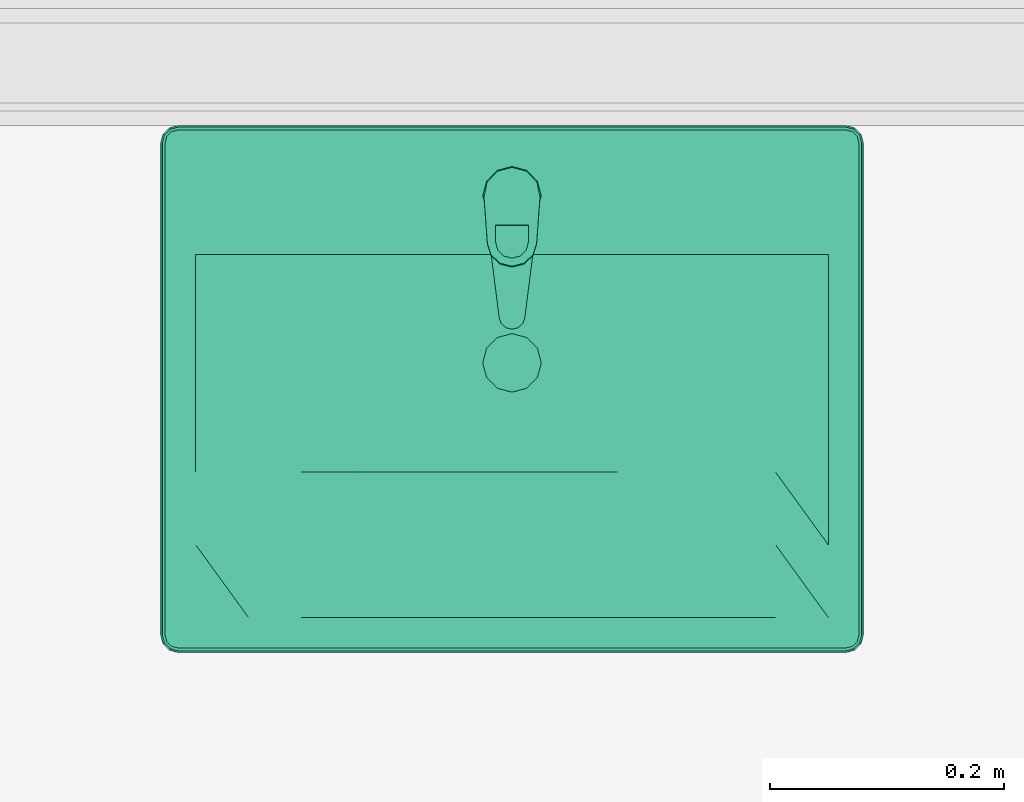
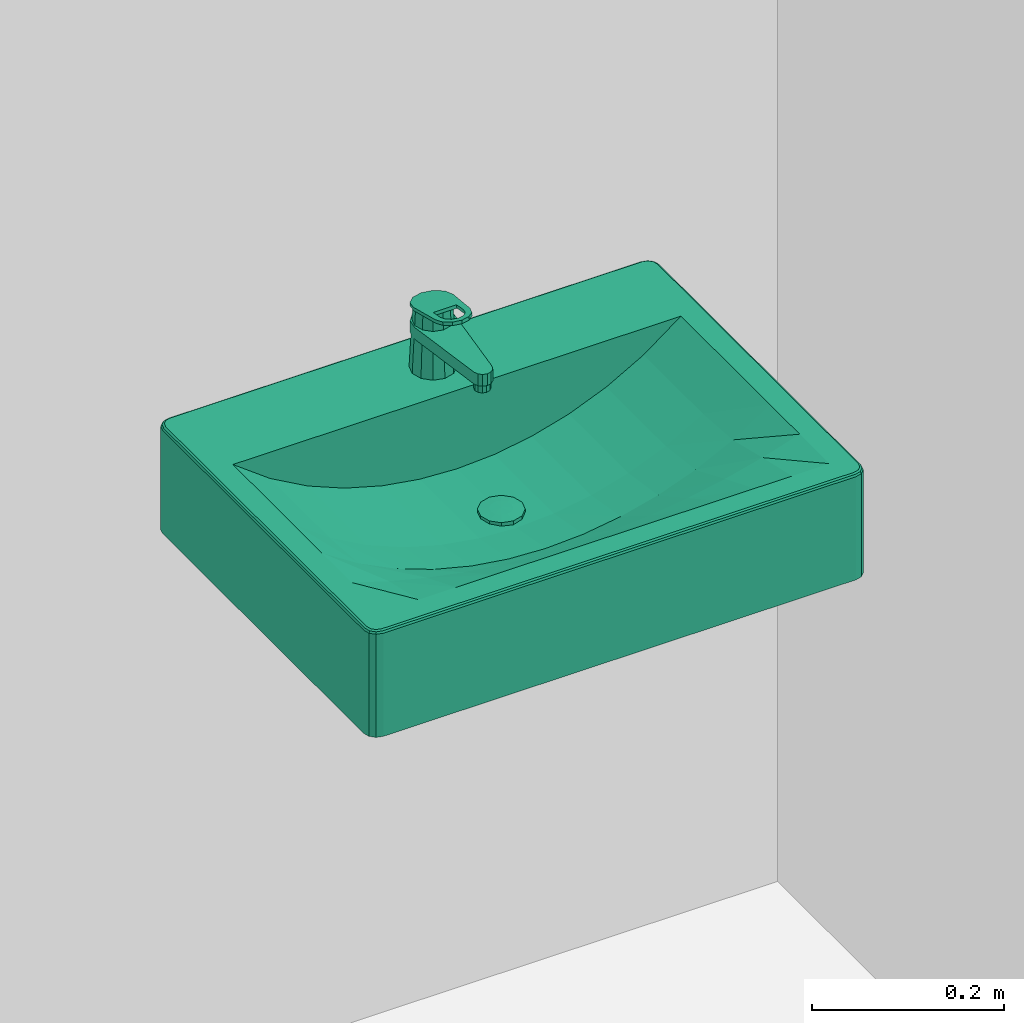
# One storey, part 118 of 135: 1 flow controller.
"""IFC2X3 building model written with IfcOpenShell, lengths in millimetres."""

import ifcopenshell
import ifcopenshell.guid

model = None  # the IFC model being written
_history = None  # IfcOwnerHistory: only IFC2X3 demands one
_inside = {}  # id of a spatial element -> (the spatial element, [elements in it])
_under = {}  # id of a project, library or spatial element -> (it, [spatial elements below it])
_declared = {}  # id of a project -> (the project, [libraries it declares])
_typed = {}  # id of a type object -> (the type object, [elements of that type])
_made_of = {}  # id of a material, layer set ... -> (it, [elements and type objects made of it])


def new_model(schema):
    """Start an empty IFC model of exactly this schema.

    Asked for "IFC4X3", IfcOpenShell would pick the latest addendum, in which some entities
    have other attributes; the version numbers below select the first issue.
    IFC2X3 requires an IfcOwnerHistory on every rooted entity: one is made here for all.
    """
    global model, _history
    if schema == "IFC4X3":
        model = ifcopenshell.file(schema_version=(4, 3, 0, 0))
    else:
        model = ifcopenshell.file(schema=schema)
    _inside.clear()
    _under.clear()
    _declared.clear()
    _typed.clear()
    _made_of.clear()
    _history = None
    if model.schema == "IFC2X3":
        org = make("IfcOrganization", Name="unknown")
        user = make(
            "IfcPersonAndOrganization",
            ThePerson=make("IfcPerson", FamilyName="unknown"),
            TheOrganization=org,
        )
        app = make(
            "IfcApplication",
            ApplicationDeveloper=org,
            Version="unknown",
            ApplicationFullName="unknown",
            ApplicationIdentifier="unknown",
        )
        _history = make(
            "IfcOwnerHistory",
            OwningUser=user,
            OwningApplication=app,
            ChangeAction="ADDED",
            CreationDate=0,
        )
    return model


def make(cls, **values):
    """One entity of the class cls with the attributes given. An attribute that is None is left unset."""
    return model.create_entity(
        cls, **{name: value for name, value in values.items() if value is not None}
    )


def entity(cls, *values):
    """Any entity or typed value of the class cls, its attributes in the order of the schema. None: left unset."""
    e = model.create_entity(cls)
    for i, value in enumerate(values):
        if value is not None:
            e[i] = value
    return e


def rooted(cls, **values):
    """An entity with a GlobalId (a new one), such as an element, a storey or a relation."""
    return make(cls, GlobalId=ifcopenshell.guid.new(), OwnerHistory=_history, **values)


def si_unit(unit_type, name, prefix=None):
    """IfcSIUnit, for example si_unit("LENGTHUNIT", "METRE", prefix="MILLI")."""
    return make("IfcSIUnit", UnitType=unit_type, Prefix=prefix, Name=name)


def converted_unit(unit_type, name, factor, base, dimensions=None, offset=None):
    """IfcConversionBasedUnit, such as the inch: factor (a typed value) times the base unit."""
    return make(
        "IfcConversionBasedUnit"
        if offset is None
        else "IfcConversionBasedUnitWithOffset",
        ConversionOffset=offset,
        Dimensions=None
        if dimensions is None
        else entity("IfcDimensionalExponents", *dimensions),
        UnitType=unit_type,
        Name=name,
        ConversionFactor=make(
            "IfcMeasureWithUnit", ValueComponent=factor, UnitComponent=base
        ),
    )


def derived_unit(unit_type, elements):
    """IfcDerivedUnit: a product of units, each with its exponent."""
    return make(
        "IfcDerivedUnit",
        Elements=[
            make("IfcDerivedUnitElement", Unit=unit, Exponent=power)
            for unit, power in elements
        ],
        UnitType=unit_type,
    )


def money_unit(currency):
    """IfcMonetaryUnit."""
    return make("IfcMonetaryUnit", Currency=currency)


def assignment(units):
    """IfcUnitAssignment: the units of a project."""
    return None if units is None else make("IfcUnitAssignment", Units=units)


def point(xyz):
    """IfcCartesianPoint."""
    return None if xyz is None else make("IfcCartesianPoint", Coordinates=xyz)


def direction(xyz):
    """IfcDirection."""
    return None if xyz is None else make("IfcDirection", DirectionRatios=xyz)


def frame(location, z_axis=None, x_axis=None):
    """IfcAxis2Placement3D, a coordinate frame: its origin and axes. An axis left out is left unset."""
    return make(
        "IfcAxis2Placement3D",
        Location=point(location),
        Axis=direction(z_axis),
        RefDirection=direction(x_axis),
    )


def origin_with_axes():
    """The frame at (0, 0, 0) with the z axis (0, 0, 1) and the x axis (1, 0, 0) written out."""
    return frame((0.0, 0.0, 0.0), z_axis=(0.0, 0.0, 1.0), x_axis=(1.0, 0.0, 0.0))


def place(relative_to, where):
    """IfcLocalPlacement: puts the frame where relative to a parent placement (None: the world)."""
    return make(
        "IfcLocalPlacement", PlacementRelTo=relative_to, RelativePlacement=where
    )


def context(
    kind, dimensions, precision=None, world=None, true_north=None, identifier=None
):
    """IfcGeometricRepresentationContext, for example the 3D "Model" context."""
    return make(
        "IfcGeometricRepresentationContext",
        ContextIdentifier=identifier,
        ContextType=kind,
        CoordinateSpaceDimension=dimensions,
        Precision=precision,
        WorldCoordinateSystem=world,
        TrueNorth=true_north,
    )


def subcontext(parent, identifier, kind, view, scale=None):
    """IfcGeometricRepresentationSubContext, for example "Body" below "Model"."""
    return make(
        "IfcGeometricRepresentationSubContext",
        ContextIdentifier=identifier,
        ContextType=kind,
        ParentContext=parent,
        TargetScale=scale,
        TargetView=view,
    )


def project(units=None, contexts=None):
    """IfcProject with its units and contexts."""
    return rooted(
        "IfcProject",
        Name="project",
        RepresentationContexts=contexts,
        UnitsInContext=assignment(units),
    )


def spatial(cls, under=None, at=None, **own):
    """A site, building, storey or space (cls), placed at a placement, below another one or the project."""
    s = rooted(cls, ObjectPlacement=at, **own)
    if under is not None:
        _under.setdefault(under.id(), (under, []))[1].append(s)
    return s


def faces_of(points, faces, orient=None, outer=None):
    """IfcFace entities. A face is a list of loops; a loop is a list of indices into points, from 0.

    orient and outer hold one flag for each loop. By default every Orientation is true, the
    first loop of a face is its IfcFaceOuterBound and the others are IfcFaceBound.
    """
    made = []
    for i, loops in enumerate(faces):
        bounds = []
        for j, loop in enumerate(loops):
            is_outer = j == 0 if outer is None else outer[i][j]
            bounds.append(
                make(
                    "IfcFaceOuterBound" if is_outer else "IfcFaceBound",
                    Bound=make("IfcPolyLoop", Polygon=[points[k] for k in loop]),
                    Orientation=True if orient is None else orient[i][j],
                )
            )
        made.append(make("IfcFace", Bounds=bounds))
    return made


def open_shell(faces, orient=None, outer=None):
    """The faces of one IfcOpenShell. surface_model builds it on its shared points."""
    return ("IfcOpenShell", faces, orient, outer)


def faceted_brep(points, faces, orient=None, outer=None, voids=None):
    """IfcFacetedBrep: a solid bounded by flat faces; with voids (closed shells), ...WithVoids."""
    shared = [point(p) for p in points]
    hull = make("IfcClosedShell", CfsFaces=faces_of(shared, faces, orient, outer))
    if voids is None:
        return make("IfcFacetedBrep", Outer=hull)
    return make(
        "IfcFacetedBrepWithVoids",
        Outer=hull,
        Voids=[
            make(cls, CfsFaces=faces_of(shared, fs, o, b)) for cls, fs, o, b in voids
        ],
    )


def surface_model(cls, points, shells):
    """IfcFaceBasedSurfaceModel or IfcShellBasedSurfaceModel (cls): surfaces that need not close."""
    shared = [point(p) for p in points]
    made = [make(c, CfsFaces=faces_of(shared, fs, o, b)) for c, fs, o, b in shells]
    if cls == "IfcFaceBasedSurfaceModel":
        return make(cls, FbsmFaces=made)
    return make(cls, SbsmBoundary=made)


def shape(context_of_items, identifier, shape_type, items):
    """IfcShapeRepresentation: the items that make up one representation, for example the "Body"."""
    return make(
        "IfcShapeRepresentation",
        ContextOfItems=context_of_items,
        RepresentationIdentifier=identifier,
        RepresentationType=shape_type,
        Items=items,
    )


def source(mapping_origin, context_of_items, identifier, shape_type, items):
    """IfcRepresentationMap: a shape defined once, which mapped items show again and again."""
    return make(
        "IfcRepresentationMap",
        MappingOrigin=mapping_origin,
        MappedRepresentation=shape(context_of_items, identifier, shape_type, items),
    )


def transform(
    local_origin,
    x_axis=None,
    y_axis=None,
    z_axis=None,
    scale=None,
    scale2=None,
    scale3=None,
    uniform=True,
):
    """IfcCartesianTransformationOperator3D, or its non-uniform kind. x_axis, y_axis, z_axis: its Axis1, 2, 3."""
    if uniform:
        return make(
            "IfcCartesianTransformationOperator3D",
            Axis1=direction(x_axis),
            Axis2=direction(y_axis),
            LocalOrigin=point(local_origin),
            Scale=scale,
            Axis3=direction(z_axis),
        )
    return make(
        "IfcCartesianTransformationOperator3DnonUniform",
        Axis1=direction(x_axis),
        Axis2=direction(y_axis),
        LocalOrigin=point(local_origin),
        Scale=scale,
        Axis3=direction(z_axis),
        Scale2=scale2,
        Scale3=scale3,
    )


def mapped(mapping_source, mapping_target):
    """IfcMappedItem: shows the shape of a source again, moved by a transform."""
    return make(
        "IfcMappedItem", MappingSource=mapping_source, MappingTarget=mapping_target
    )


def made_of(thing, what):
    """Note that an element or type object is made of a material, layer set ...; save() writes the relation."""
    if what is not None:
        _made_of.setdefault(what.id(), (what, []))[1].append(thing)
    return thing


def type_object(cls, material=None, **own):
    """A type object (cls), such as IfcWallType, which elements share."""
    return made_of(rooted(cls, **own), material)


def type_shapes(of_type, sources):
    """Give a type object the sources (RepresentationMaps) that its elements show as mapped items."""
    of_type.RepresentationMaps = sources


def element(
    cls,
    number,
    at=None,
    inside=None,
    cuts=None,
    type_object=None,
    material=None,
    context=None,
    identifier="Body",
    shape_type=None,
    held_by="IfcProductDefinitionShape",
    body=None,
    shapes=None,
    **own,
):
    """One element of the class cls, such as IfcWall. Its Tag is "e" and its number.

    at: its placement. inside: the storey or other place that contains it. cuts: it is an
    opening in that element (IfcRelVoidsElement). A single representation is given by context,
    identifier, shape_type and body (its items); several are given by shapes. held_by: the class
    of the entity that holds the representations. save() writes the other relations.
    """
    e = rooted(cls, Tag="e%d" % number, ObjectPlacement=at, **own)
    if body is not None:
        shapes = [shape(context, identifier, shape_type, body)]
    if shapes is not None:
        e.Representation = make(held_by, Representations=shapes)
    if inside is not None:
        _inside.setdefault(inside.id(), (inside, []))[1].append(e)
    if cuts is not None:
        rooted(
            "IfcRelVoidsElement", RelatingBuildingElement=cuts, RelatedOpeningElement=e
        )
    if type_object is not None:
        _typed.setdefault(type_object.id(), (type_object, []))[1].append(e)
    return made_of(e, material)


def aggregate(whole, parts):
    """IfcRelAggregates: a whole, such as a stair, and the parts it consists of."""
    return rooted("IfcRelAggregates", RelatingObject=whole, RelatedObjects=parts)


def save(model, path):
    """Write the relations noted so far, then the file.

    IfcRelAggregates (storeys below a building ...), IfcRelContainedInSpatialStructure (elements
    in a storey), IfcRelDefinesByType, IfcRelAssociatesMaterial and IfcRelDeclares: one each for
    every whole, place, type object, material and project.
    """
    for whole, parts in _under.values():
        aggregate(whole, parts)
    for where, things in _inside.values():
        rooted(
            "IfcRelContainedInSpatialStructure",
            RelatedElements=things,
            RelatingStructure=where,
        )
    for kind, things in _typed.values():
        rooted("IfcRelDefinesByType", RelatedObjects=things, RelatingType=kind)
    for what, things in _made_of.values():
        rooted("IfcRelAssociatesMaterial", RelatedObjects=things, RelatingMaterial=what)
    for by, libraries in _declared.values():
        rooted("IfcRelDeclares", RelatingContext=by, RelatedDefinitions=libraries)
    model.write(path)


model = new_model("IFC2X3")

# Units and contexts
model_context = context("Model", 3, precision=0.01, world=origin_with_axes(), true_north=direction((0.0, 1.0)))
body_context = subcontext(model_context, "Body", "Model", "MODEL_VIEW")
ifc_project = project(units=[si_unit("LENGTHUNIT", "METRE", prefix="MILLI"), si_unit("AREAUNIT", "SQUARE_METRE"), si_unit("VOLUMEUNIT", "CUBIC_METRE"), converted_unit("PLANEANGLEUNIT", "DEGREE", entity("IfcPlaneAngleMeasure", 0.0174532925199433), si_unit("PLANEANGLEUNIT", "RADIAN"), dimensions=[0, 0, 0, 0, 0, 0, 0]), money_unit("EUR"), converted_unit("TIMEUNIT", "Year", entity("IfcTimeMeasure", 31557600.0), si_unit("TIMEUNIT", "SECOND"), dimensions=[0, 0, 1, 0, 0, 0, 0]), si_unit("MASSUNIT", "GRAM", prefix="KILO"), si_unit("THERMODYNAMICTEMPERATUREUNIT", "DEGREE_CELSIUS"), si_unit("LUMINOUSINTENSITYUNIT", "LUMEN"), si_unit("ENERGYUNIT", "JOULE", prefix="MEGA"), derived_unit("THERMALCONDUCTANCEUNIT", [(si_unit("POWERUNIT", "WATT"), 1), (si_unit("LENGTHUNIT", "METRE"), -1), (si_unit("THERMODYNAMICTEMPERATUREUNIT", "KELVIN"), -1)]), derived_unit("SPECIFICHEATCAPACITYUNIT", [(si_unit("ENERGYUNIT", "JOULE"), 1), (si_unit("MASSUNIT", "GRAM", prefix="KILO"), -1), (si_unit("THERMODYNAMICTEMPERATUREUNIT", "KELVIN"), -1)]), derived_unit("MASSDENSITYUNIT", [(si_unit("MASSUNIT", "GRAM", prefix="KILO"), 1), (si_unit("VOLUMEUNIT", "CUBIC_METRE"), -1)])], contexts=[model_context])

# Site, building, storey
site_placement = place(None, origin_with_axes())
site = spatial("IfcSite", under=ifc_project, at=site_placement, Name="Site", CompositionType="ELEMENT")
building_placement = place(site_placement, origin_with_axes())
building = spatial("IfcBuilding", under=site, at=building_placement, Name="Naam gebouw", CompositionType="ELEMENT")
storey_placement = place(building_placement, origin_with_axes())
storey = spatial("IfcBuildingStorey", under=building, at=storey_placement, Name="Begane grond N", CompositionType="ELEMENT", Elevation=0.0)

# Flow controller
valve_type = type_object("IfcValveType", Name="Wasbak 27", PredefinedType="NOTDEFINED")
shared_shape = source(origin_with_axes(), body_context, "Body", "SurfaceModel", [
    faceted_brep([(-285.0, -450.0, 865.0), (-292.5, -447.9903810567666, 865.0), (-297.9903810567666, -442.5, 865.0), (-300.0, -435.0, 865.0), (-300.0, -15.00000000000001, 865.0), (-297.9903810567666, -7.500000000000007, 865.0), (-292.5, -2.009618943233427, 865.0), (-285.0, 0.0, 865.0), (285.0, 0.0, 865.0), (292.5, -2.009618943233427, 865.0), (297.9903810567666, -7.500000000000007, 865.0), (300.0, -15.00000000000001, 865.0), (300.0, -435.0, 865.0), (297.9903810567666, -442.5, 865.0), (292.5, -447.9903810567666, 865.0), (285.0, -450.0, 865.0), (270.0, -420.0000000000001, 865.0), (270.0, -110.0, 865.0), (-270.0, -110.0, 865.0), (-270.0, -420.0000000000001, 865.0), (-284.9999995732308, -450.0000003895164, 995.0), (-292.499999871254, -447.9903813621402, 995.0), (-297.990381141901, -442.5000000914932, 995.0), (-300.0000001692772, -434.99999979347, 995.0), (-300.0000001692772, -14.99999986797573, 995.0), (-297.990381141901, -7.499999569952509, 995.0), (-292.499999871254, -2.009619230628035, 995.0), (-284.9999995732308, -2.032518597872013e-07, 995.0), (284.9999997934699, -2.032518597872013e-07, 995.0), (292.5000000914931, -2.009619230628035, 995.0), (297.9903813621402, -7.499999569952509, 995.0), (300.0000003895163, -14.99999986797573, 995.0), (300.0000003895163, -434.99999979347, 995.0), (297.9903813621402, -442.5000000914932, 995.0), (292.5000000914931, -447.9903813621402, 995.0), (284.9999997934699, -450.0000003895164, 995.0), (270.0, -110.0, 999.9999996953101), (270.0, -420.0000000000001, 999.9999996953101), (-270.0, -110.0, 999.9999996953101), (-270.0, -420.0000000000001, 999.9999996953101), (-284.9775698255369, -449.8296295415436, 996.2940952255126), (-292.411809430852, -447.8376310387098, 996.2940952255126), (-297.8376308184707, -442.4118096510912, 996.2940952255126), (-299.8296293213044, -434.9775700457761, 996.2940952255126), (-299.8296293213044, -15.02242961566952, 996.2940952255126), (-297.8376308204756, -7.588190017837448, 996.2940952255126), (-292.4118094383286, -2.16236955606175, 996.2940952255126), (-284.9775698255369, -0.1703710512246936, 996.2940952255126), (284.9775700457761, -0.1703710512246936, 996.2940952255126), (292.4118096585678, -2.16236955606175, 996.2940952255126), (297.8376310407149, -7.588190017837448, 996.2940952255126), (299.8296295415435, -15.02242961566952, 996.2940952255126), (299.8296295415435, -434.9775700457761, 996.2940952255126), (297.8376310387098, -442.4118096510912, 996.2940952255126), (292.4118096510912, -447.8376310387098, 996.2940952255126), (284.9775700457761, -449.8296295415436, 996.2940952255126), (284.3417376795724, -4.999997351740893, 999.9999996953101), (-284.3417374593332, -4.999997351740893, 999.9999996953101), (-289.9118111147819, -6.492494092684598, 999.9999996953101), (-293.507506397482, -10.08818876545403, 999.9999996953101), (-295.0000030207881, -15.6582619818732, 999.9999996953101), (-295.0000030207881, -434.3417376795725, 999.9999996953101), (-293.5075063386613, -439.9118111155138, 999.9999996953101), (-289.9118108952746, -443.5075065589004, 999.9999996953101), (-284.3417374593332, -445.0000032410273, 999.9999996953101), (284.3417376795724, -445.0000032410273, 999.9999996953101), (289.9118111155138, -443.5075065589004, 999.9999996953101), (293.5075065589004, -439.9118111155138, 999.9999996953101), (295.0000032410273, -434.3417376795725, 999.9999996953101), (295.0000032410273, -15.6582619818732, 999.9999996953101), (293.5075066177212, -10.08818876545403, 999.9999996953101), (289.911811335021, -6.492494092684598, 999.9999996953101), (-284.8071989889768, -448.5355345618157, 998.5355339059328), (-291.7419365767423, -446.6773772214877, 998.5355339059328), (-296.6773770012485, -441.7419367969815, 998.5355339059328), (-298.5355343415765, -434.807199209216, 998.5355339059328), (-298.5355343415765, -15.1928004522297, 998.5355339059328), (-296.677377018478, -8.258062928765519, 998.5355339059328), (-291.7419366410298, -3.322623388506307, 998.5355339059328), (-284.8071989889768, -1.464466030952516, 998.5355339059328), (284.8071992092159, -1.464466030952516, 998.5355339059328), (291.7419368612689, -3.322623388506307, 998.5355339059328), (296.6773772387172, -8.258062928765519, 998.5355339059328), (298.5355345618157, -15.1928004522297, 998.5355339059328), (298.5355345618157, -434.807199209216, 998.5355339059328), (296.6773772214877, -441.7419367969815, 998.5355339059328), (291.7419367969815, -446.6773772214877, 998.5355339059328), (284.8071992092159, -448.5355345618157, 998.5355339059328), (284.5121082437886, -3.705904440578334, 999.8296291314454), (-284.5121080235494, -3.705904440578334, 999.8296291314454), (-290.581682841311, -5.332242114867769, 999.8296291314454), (-294.667758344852, -9.418316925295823, 999.8296291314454), (-296.2940959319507, -15.487891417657, 999.8296291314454), (-296.2940959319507, -434.5121082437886, 999.8296291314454), (-294.6677583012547, -440.5816828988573, 999.8296291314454), (-290.5816826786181, -444.6677585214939, 999.8296291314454), (-284.5121080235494, -446.2940961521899, 999.8296291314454), (284.5121082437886, -446.2940961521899, 999.8296291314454), (290.5816828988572, -444.6677585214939, 999.8296291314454), (294.6677585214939, -440.5816828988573, 999.8296291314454), (296.2940961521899, -434.5121082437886, 999.8296291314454), (296.2940961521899, -15.487891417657, 999.8296291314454), (294.6677585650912, -9.418316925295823, 999.8296291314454), (290.5816830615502, -5.332242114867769, 999.8296291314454)], [[[0, 1, 2, 3, 4, 5, 6, 7, 8, 9, 10, 11, 12, 13, 14, 15], [16, 17, 18, 19]], [[1, 0, 20, 21]], [[2, 1, 21, 22]], [[3, 2, 22, 23]], [[4, 3, 23, 24]], [[5, 4, 24, 25]], [[6, 5, 25, 26]], [[7, 6, 26, 27]], [[8, 7, 27, 28]], [[9, 8, 28, 29]], [[10, 9, 29, 30]], [[11, 10, 30, 31]], [[12, 11, 31, 32]], [[13, 12, 32, 33]], [[14, 13, 33, 34]], [[15, 14, 34, 35]], [[0, 15, 35, 20]], [[36, 17, 16, 37]], [[38, 18, 17, 36]], [[39, 19, 18, 38]], [[37, 16, 19, 39]], [[21, 20, 40, 41]], [[22, 21, 41, 42]], [[23, 22, 42, 43]], [[24, 23, 43, 44]], [[25, 24, 44, 45]], [[26, 25, 45, 46]], [[27, 26, 46, 47]], [[28, 27, 47, 48]], [[29, 28, 48, 49]], [[30, 29, 49, 50]], [[31, 30, 50, 51]], [[32, 31, 51, 52]], [[33, 32, 52, 53]], [[34, 33, 53, 54]], [[35, 34, 54, 55]], [[20, 35, 55, 40]], [[56, 57, 58, 59, 60, 61, 62, 63, 64, 65, 66, 67, 68, 69, 70, 71], [37, 39, 38, 36]], [[41, 40, 72, 73]], [[42, 41, 73, 74]], [[43, 42, 74, 75]], [[44, 43, 75, 76]], [[45, 44, 76, 77]], [[46, 45, 77, 78]], [[47, 46, 78, 79]], [[48, 47, 79, 80]], [[49, 48, 80, 81]], [[50, 49, 81, 82]], [[51, 50, 82, 83]], [[52, 51, 83, 84]], [[53, 52, 84, 85]], [[54, 53, 85, 86]], [[55, 54, 86, 87]], [[40, 55, 87, 72]], [[88, 89, 57, 56]], [[89, 90, 58, 57]], [[90, 91, 59, 58]], [[91, 92, 60, 59]], [[92, 93, 61, 60]], [[93, 94, 62, 61]], [[94, 95, 63, 62]], [[95, 96, 64, 63]], [[96, 97, 65, 64]], [[97, 98, 66, 65]], [[98, 99, 67, 66]], [[99, 100, 68, 67]], [[100, 101, 69, 68]], [[101, 102, 70, 69]], [[102, 103, 71, 70]], [[103, 88, 56, 71]], [[73, 72, 96, 95]], [[74, 73, 95, 94]], [[75, 74, 94, 93]], [[76, 75, 93, 92]], [[77, 76, 92, 91]], [[78, 77, 91, 90]], [[79, 78, 90, 89]], [[80, 79, 89, 88]], [[81, 80, 88, 103]], [[82, 81, 103, 102]], [[83, 82, 102, 101]], [[84, 83, 101, 100]], [[85, 84, 100, 99]], [[86, 85, 99, 98]], [[87, 86, 98, 97]], [[72, 87, 97, 96]]]),
    faceted_brep([(270.0, -420.0000000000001, 865.0), (-270.0, -420.0000000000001, 865.0), (-270.0, -110.0, 865.0), (270.0, -110.0, 865.0), (-12.49999999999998, -224.368635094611, 865.0), (0.0, -227.718, 865.0), (12.50000000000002, -224.368635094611, 865.0), (21.65063509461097, -215.218, 865.0), (25.0, -202.718, 865.0), (21.65063509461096, -190.218, 865.0), (12.49999999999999, -181.067364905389, 865.0), (0.0, -177.718, 865.0), (-12.50000000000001, -181.067364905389, 865.0), (-21.65063509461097, -190.218, 865.0), (-25.0, -202.718, 865.0), (-21.65063509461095, -215.218, 865.0), (135.0, -420.0000000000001, 1000.0), (90.0, -420.0000000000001, 1000.0), (44.99999999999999, -420.0000000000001, 1000.0), (0.0, -420.0000000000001, 1000.0), (-45.00000000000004, -420.0000000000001, 1000.0), (-90.00000000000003, -420.0000000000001, 1000.0), (-135.0, -420.0000000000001, 1000.0), (-180.0000000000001, -420.0000000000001, 1000.0), (-225.0, -420.0000000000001, 1000.0), (-270.0, -420.0000000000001, 1000.0), (270.0, -420.0000000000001, 1000.0), (225.0, -420.0000000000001, 1000.0), (180.0, -420.0000000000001, 1000.0), (-270.0, -234.0, 1000.0), (-270.0, -172.0, 1000.0), (-270.0, -110.0, 1000.0), (-270.0, -358.0000000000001, 1000.0), (-270.0, -296.0000000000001, 999.9999999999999), (-135.0, -110.0, 922.6004593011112), (-90.00000000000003, -110.0, 909.8887668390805), (-45.00000000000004, -110.0, 902.449942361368), (0.0, -110.0, 900.0), (44.99999999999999, -110.0, 902.449942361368), (90.0, -110.0, 909.8887668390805), (135.0, -110.0, 922.6004593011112), (180.0, -110.0, 941.1231796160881), (225.0, -110.0, 966.3832810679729), (270.0, -110.0, 1000.0), (-225.0, -110.0, 966.3832810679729), (-180.0000000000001, -110.0, 941.1231796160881), (270.0, -296.0000000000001, 1000.0), (270.0, -358.0000000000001, 1000.0), (270.0, -172.0, 1000.0), (270.0, -234.0, 1000.0), (0.0, -227.718, 900.0), (-12.49999999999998, -224.368635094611, 900.6805395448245), (12.50000000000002, -224.368635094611, 900.6805395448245), (21.65063509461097, -215.218, 901.1787290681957), (25.0, -202.718, 901.3610790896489), (21.65063509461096, -190.218, 901.1787290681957), (12.49999999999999, -181.067364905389, 900.6805395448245), (0.0, -177.718, 900.0), (-12.50000000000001, -181.067364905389, 900.6805395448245), (-21.65063509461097, -190.218, 901.1787290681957), (-25.0, -202.718, 901.3610790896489), (-21.65063509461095, -215.218, 901.1787290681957), (90.0, -358.0000000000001, 959.6989661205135), (44.99999999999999, -358.0000000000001, 956.0213334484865), (0.0, -358.0000000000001, 954.7990813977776), (-45.00000000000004, -358.0000000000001, 956.0213334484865), (-90.00000000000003, -358.0000000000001, 959.6989661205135), (-135.0, -358.0000000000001, 965.8650987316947), (-180.0000000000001, -358.0000000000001, 974.5766150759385), (-225.0, -358.0000000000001, 985.9168845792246), (225.0, -358.0000000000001, 985.9168845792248), (180.0, -358.0000000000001, 974.5766150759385), (135.0, -358.0000000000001, 965.8650987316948), (-225.0, -234.0, 966.3832810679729), (-225.0, -172.0, 966.3832810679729), (-225.0, -296.0000000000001, 970.8433791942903), (-135.0, -172.0, 922.6004593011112), (-90.00000000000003, -172.0, 909.8887668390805), (-45.00000000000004, -172.0, 902.449942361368), (0.0, -172.0, 900.0), (44.99999999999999, -172.0, 902.449942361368), (90.0, -172.0, 909.8887668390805), (135.0, -172.0, 922.6004593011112), (180.0, -172.0, 941.1231796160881), (225.0, -172.0, 966.3832810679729), (-180.0000000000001, -172.0, 941.1231796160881), (225.0, -296.0000000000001, 970.8433791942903), (225.0, -234.0, 966.3832810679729), (-45.00000000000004, -234.0, 902.449942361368), (0.0, -234.0, 900.0), (44.99999999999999, -234.0, 902.449942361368), (-180.0000000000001, -234.0, 941.1231796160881), (-135.0, -234.0, 922.6004593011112), (-90.00000000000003, -234.0, 909.8887668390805), (90.0, -234.0, 909.8887668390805), (135.0, -234.0, 922.6004593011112), (180.0, -234.0, 941.1231796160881), (0.0, -296.0000000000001, 911.4604006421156), (44.99999999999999, -296.0000000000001, 913.6864730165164), (90.0, -296.0000000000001, 920.4312036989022), (-45.00000000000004, -296.0000000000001, 913.6864730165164), (-90.00000000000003, -296.0000000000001, 920.4312036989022), (-135.0, -296.0000000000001, 931.904485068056), (-180.0000000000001, -296.0000000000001, 948.4946543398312), (180.0, -296.0000000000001, 948.4946543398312), (135.0, -296.0000000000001, 931.904485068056)], [[[0, 1, 2, 3], [4, 5, 6, 7, 8, 9, 10, 11, 12, 13, 14, 15]], [[16, 17, 18, 19, 20, 21, 22, 23, 24, 25, 1, 0, 26, 27, 28]], [[29, 30, 31, 2, 1, 25, 32, 33]], [[34, 35, 36, 37, 38, 39, 40, 41, 42, 43, 3, 2, 31, 44, 45]], [[46, 47, 26, 0, 3, 43, 48, 49]], [[50, 5, 4, 51]], [[52, 6, 5, 50]], [[53, 7, 6, 52]], [[54, 8, 7, 53]], [[55, 9, 8, 54]], [[56, 10, 9, 55]], [[57, 11, 10, 56]], [[58, 12, 11, 57]], [[59, 13, 12, 58]], [[60, 14, 13, 59]], [[61, 15, 14, 60]], [[51, 4, 15, 61]], [[16, 62, 17]], [[17, 63, 18]], [[18, 64, 19]], [[19, 65, 20]], [[20, 66, 21]], [[21, 67, 22]], [[22, 68, 23]], [[23, 69, 24]], [[24, 32, 25]], [[26, 70, 27]], [[27, 71, 28]], [[28, 72, 16]], [[29, 73, 74, 30]], [[30, 74, 44, 31]], [[69, 33, 32]], [[75, 29, 33]], [[76, 77, 35, 34]], [[77, 78, 36, 35]], [[78, 79, 37, 36]], [[79, 80, 38, 37]], [[80, 81, 39, 38]], [[81, 82, 40, 39]], [[82, 83, 41, 40]], [[83, 84, 42, 41]], [[84, 48, 43, 42]], [[74, 85, 45, 44]], [[85, 76, 34, 45]], [[47, 46, 86]], [[26, 47, 70]], [[87, 49, 48, 84]], [[46, 49, 87]], [[58, 57, 79, 78, 88, 89, 50, 51, 61, 60, 59]], [[56, 55, 54, 53, 52, 50, 89, 90, 80, 79, 57]], [[16, 72, 62]], [[17, 62, 63]], [[18, 63, 64]], [[19, 64, 65]], [[20, 65, 66]], [[21, 66, 67]], [[22, 67, 68]], [[23, 68, 69]], [[24, 69, 32]], [[27, 70, 71]], [[28, 71, 72]], [[75, 73, 29]], [[73, 91, 85, 74]], [[69, 75, 33]], [[92, 93, 77, 76]], [[93, 88, 78, 77]], [[90, 94, 81, 80]], [[94, 95, 82, 81]], [[95, 96, 83, 82]], [[96, 87, 84, 83]], [[91, 92, 76, 85]], [[46, 87, 86]], [[47, 86, 70]], [[97, 89, 88]], [[98, 90, 89]], [[72, 99, 62]], [[62, 98, 63]], [[63, 97, 64]], [[64, 100, 65]], [[65, 101, 66]], [[66, 102, 67]], [[67, 103, 68]], [[68, 75, 69]], [[70, 104, 71]], [[71, 105, 72]], [[103, 73, 75]], [[103, 91, 73]], [[101, 93, 92]], [[100, 88, 93]], [[99, 94, 90]], [[105, 95, 94]], [[104, 96, 95]], [[86, 87, 96]], [[102, 92, 91]], [[70, 86, 104]], [[98, 89, 97]], [[97, 88, 100]], [[99, 90, 98]], [[72, 105, 99]], [[62, 99, 98]], [[63, 98, 97]], [[64, 97, 100]], [[65, 100, 101]], [[66, 101, 102]], [[67, 102, 103]], [[68, 103, 75]], [[71, 104, 105]], [[102, 91, 103]], [[100, 93, 101]], [[101, 92, 102]], [[105, 94, 99]], [[104, 95, 105]], [[86, 96, 104]]]),
    faceted_brep([(-21.65063509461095, -215.218, 900.0), (-25.0, -202.718, 900.0), (-21.65063509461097, -190.218, 900.0), (-12.50000000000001, -181.067364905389, 900.0), (0.0, -177.718, 900.0), (12.49999999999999, -181.067364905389, 900.0), (21.65063509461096, -190.218, 900.0), (25.0, -202.718, 900.0), (21.65063509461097, -215.218, 900.0), (12.50000000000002, -224.368635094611, 900.0), (0.0, -227.718, 900.0), (-12.49999999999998, -224.368635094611, 900.0), (-21.65063509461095, -215.218, 905.0), (-25.0, -202.718, 905.0), (-21.65063509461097, -190.218, 905.0), (-12.50000000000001, -181.067364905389, 905.0), (0.0, -177.718, 905.0), (12.49999999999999, -181.067364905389, 905.0), (21.65063509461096, -190.218, 905.0), (25.0, -202.718, 905.0), (21.65063509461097, -215.218, 905.0), (12.50000000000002, -224.368635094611, 905.0), (0.0, -227.718, 905.0), (-12.49999999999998, -224.368635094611, 905.0)], [[[0, 1, 2, 3, 4, 5, 6, 7, 8, 9, 10, 11]], [[0, 12, 13, 1]], [[1, 13, 14, 2]], [[2, 14, 15, 3]], [[3, 15, 16, 4]], [[4, 16, 17, 5]], [[5, 17, 18, 6]], [[6, 18, 19, 7]], [[7, 19, 20, 8]], [[8, 20, 21, 9]], [[9, 21, 22, 10]], [[10, 22, 23, 11]], [[11, 23, 12, 0]], [[12, 23, 22, 21, 20, 19, 18, 17, 16, 15, 14, 13]]]),
    surface_model("IfcShellBasedSurfaceModel", [(0.0, -202.718, 907.0), (6.310952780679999, -191.7871091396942, 906.4975737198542), (0.0, -190.09609443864, 906.4975737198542), (10.93089086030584, -196.40704721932, 906.4975737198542), (12.5, -181.067364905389, 905.0), (0.0, -177.718, 905.0), (-6.310952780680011, -191.7871091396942, 906.4975737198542), (12.62190556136, -202.718, 906.4975737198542), (21.65063509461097, -190.218, 905.0), (-12.50000000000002, -181.067364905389, 905.0), (-10.93089086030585, -196.40704721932, 906.4975737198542), (10.93089086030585, -209.02895278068, 906.4975737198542), (25.0, -202.718, 905.0), (-21.65063509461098, -190.218, 905.0), (-12.62190556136, -202.718, 906.4975737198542), (6.310952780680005, -213.6488908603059, 906.4975737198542), (21.65063509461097, -215.218, 905.0), (-25.0, -202.718, 905.0), (-10.93089086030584, -209.02895278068, 906.4975737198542), (0.0, -215.33990556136, 906.4975737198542), (12.50000000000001, -224.368635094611, 905.0), (-21.65063509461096, -215.218, 905.0), (-6.310952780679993, -213.6488908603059, 906.4975737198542), (0.0, -227.718, 905.0), (-12.49999999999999, -224.368635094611, 905.0)], [open_shell([[[0, 1, 2]], [[0, 3, 1]], [[1, 4, 5, 2]], [[0, 2, 6]], [[0, 7, 3]], [[3, 8, 4, 1]], [[2, 5, 9, 6]], [[0, 6, 10]], [[0, 11, 7]], [[7, 12, 8, 3]], [[6, 9, 13, 10]], [[0, 10, 14]], [[0, 15, 11]], [[11, 16, 12, 7]], [[10, 13, 17, 14]], [[0, 14, 18]], [[0, 19, 15]], [[15, 20, 16, 11]], [[14, 17, 21, 18]], [[0, 18, 22]], [[0, 22, 19]], [[19, 23, 20, 15]], [[18, 21, 24, 22]], [[22, 24, 23, 19]]])]),
    faceted_brep([(-12.50000000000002, -38.34936490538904, 1000.0), (-10.587322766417, -41.66221905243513, 1076.507089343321), (0.0, -38.79807692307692, 1075.961538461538), (0.0, -34.99999999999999, 1000.0), (-21.65063509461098, -47.50000000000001, 1000.0), (-18.27355038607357, -49.44976076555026, 1077.99043062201), (-21.0, -60.00000000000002, 1080.0), (-18.10034137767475, -70.45023696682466, 1081.990521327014), (-10.41410590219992, -78.03776053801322, 1083.435763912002), (0.0, -80.80188679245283, 1083.962264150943), (10.41410590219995, -78.0377605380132, 1083.435763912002), (18.10034137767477, -70.45023696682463, 1081.990521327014), (21.0, -59.99999999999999, 1080.0), (18.27355038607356, -49.44976076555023, 1077.99043062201), (10.58732276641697, -41.66221905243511, 1076.507089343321), (12.5, -38.34936490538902, 1000.0), (21.65063509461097, -47.49999999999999, 1000.0), (25.0, -59.99999999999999, 1000.0), (21.65063509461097, -72.5, 1000.0), (12.50000000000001, -81.65063509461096, 1000.0), (0.0, -84.99999999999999, 1000.0), (-12.49999999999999, -81.65063509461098, 1000.0), (-21.65063509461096, -72.50000000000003, 1000.0), (-25.0, -60.00000000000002, 1000.0)], [[[0, 1, 2, 3]], [[4, 5, 1, 0]], [[1, 5, 6, 7, 8, 9, 10, 11, 12, 13, 14, 2]], [[3, 2, 14, 15]], [[0, 3, 15, 16, 17, 18, 19, 20, 21, 22, 23, 4]], [[23, 6, 5, 4]], [[22, 7, 6, 23]], [[21, 8, 7, 22]], [[20, 9, 8, 21]], [[19, 10, 9, 20]], [[18, 11, 10, 19]], [[17, 12, 11, 18]], [[16, 13, 12, 17]], [[15, 14, 13, 16]]]),
    faceted_brep([(-9.000000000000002, -163.0, 1035.0), (-9.000000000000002, -163.0, 1045.0), (-7.794228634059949, -158.5, 1045.0), (-7.794228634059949, -158.5, 1035.0), (-7.794228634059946, -167.5, 1035.0), (-7.794228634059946, -167.5, 1045.0), (-4.499999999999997, -170.79422863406, 1045.0), (0.0, -172.0, 1045.0), (4.500000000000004, -170.79422863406, 1045.0), (7.794228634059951, -167.5, 1045.0), (9.000000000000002, -163.0, 1045.0), (7.794228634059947, -158.5, 1045.0), (4.499999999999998, -155.2057713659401, 1045.0), (0.0, -154.0, 1045.0), (-4.500000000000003, -155.2057713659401, 1045.0), (-4.500000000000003, -155.2057713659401, 1035.0), (0.0, -154.0, 1035.0), (4.499999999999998, -155.2057713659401, 1035.0), (7.794228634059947, -158.5, 1035.0), (9.000000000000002, -163.0, 1035.0), (7.794228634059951, -167.5, 1035.0), (4.500000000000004, -170.79422863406, 1035.0), (0.0, -172.0, 1035.0), (-4.499999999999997, -170.79422863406, 1035.0)], [[[0, 1, 2, 3]], [[4, 5, 1, 0]], [[1, 5, 6, 7, 8, 9, 10, 11, 12, 13, 14, 2]], [[3, 2, 14, 15]], [[0, 3, 15, 16, 17, 18, 19, 20, 21, 22, 23, 4]], [[23, 6, 5, 4]], [[22, 7, 6, 23]], [[21, 8, 7, 22]], [[20, 9, 8, 21]], [[19, 10, 9, 20]], [[18, 11, 10, 19]], [[17, 12, 11, 18]], [[16, 13, 12, 17]], [[15, 14, 13, 16]]]),
    faceted_brep([(12.87171762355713, -39.74369617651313, 1060.0), (-1.019988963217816e-06, -36.00002168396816, 1060.0), (-12.87171934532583, -39.74369727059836, 1060.0), (-21.72780617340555, -49.80679647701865, 1060.0), (-23.80539974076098, -63.04990202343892, 1060.0), (-10.912, -164.3883, 1060.0), (-9.02891689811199, -169.2831346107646, 1060.0), (-5.093388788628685, -172.7496928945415, 1060.0), (-3.626798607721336e-05, -173.9999600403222, 1060.0), (5.093324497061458, -172.7497264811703, 1060.0), (9.02887546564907, -169.2831941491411, 1060.0), (10.9119908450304, -164.3883719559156, 1060.0), (23.8054, -63.04989999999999, 1060.0), (21.72780530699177, -49.80679463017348, 1060.0), (-11.00000000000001, -40.94744111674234, 1060.0), (0.0, -37.99999999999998, 1060.0), (11.0, -40.94744111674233, 1060.0), (19.05255888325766, -48.99999999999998, 1060.0), (22.00000000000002, -59.99999999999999, 1060.0), (19.05255888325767, -70.99999999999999, 1060.0), (11.00000000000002, -79.05255888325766, 1060.0), (0.0, -82.0, 1060.0), (-10.99999999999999, -79.05255888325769, 1060.0), (-19.05255888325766, -71.00000000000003, 1060.0), (-22.00000000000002, -60.0, 1060.0), (-19.05255888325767, -48.99999999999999, 1060.0), (12.87171762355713, -39.74369617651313, 1045.0), (-1.019988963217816e-06, -36.00002168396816, 1045.0), (-12.87171934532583, -39.74369727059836, 1045.0), (-21.72780617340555, -49.80679647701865, 1045.0), (-23.80539974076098, -63.04990202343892, 1045.0), (-10.912, -164.3883, 1045.0), (-9.02891689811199, -169.2831346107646, 1045.0), (-5.093388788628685, -172.7496928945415, 1045.0), (-3.626798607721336e-05, -173.9999600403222, 1045.0), (5.093324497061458, -172.7497264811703, 1045.0), (9.02887546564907, -169.2831941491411, 1045.0), (10.9119908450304, -164.3883719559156, 1045.0), (23.8054, -63.04989999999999, 1045.0), (21.72780530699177, -49.80679463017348, 1045.0), (0.0, -37.24999999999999, 1045.0), (-11.37500000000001, -40.297922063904, 1045.0), (11.375, -40.297922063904, 1045.0), (19.70207793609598, -48.62499999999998, 1045.0), (22.75000000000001, -59.99999999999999, 1045.0), (19.70207793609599, -71.375, 1045.0), (11.37500000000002, -79.70207793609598, 1045.0), (0.0, -82.75, 1045.0), (-11.37499999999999, -79.702077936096, 1045.0), (-19.70207793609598, -71.37500000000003, 1045.0), (-22.75000000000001, -60.0, 1045.0), (-19.70207793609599, -48.62499999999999, 1045.0)], [[[0, 1, 2, 3, 4, 5, 6, 7, 8, 9, 10, 11, 12, 13], [14, 15, 16, 17, 18, 19, 20, 21, 22, 23, 24, 25]], [[26, 27, 1, 0]], [[27, 28, 2, 1]], [[28, 29, 3, 2]], [[29, 30, 4, 3]], [[30, 31, 5, 4]], [[31, 32, 6, 5]], [[32, 33, 7, 6]], [[33, 34, 8, 7]], [[34, 35, 9, 8]], [[35, 36, 10, 9]], [[36, 37, 11, 10]], [[37, 38, 12, 11]], [[38, 39, 13, 12]], [[39, 26, 0, 13]], [[40, 15, 14, 41]], [[42, 16, 15, 40]], [[16, 42, 43, 17]], [[17, 43, 44, 18]], [[18, 44, 45, 19]], [[19, 45, 46, 20]], [[20, 46, 47, 21]], [[48, 22, 21, 47]], [[49, 23, 22, 48]], [[50, 24, 23, 49]], [[51, 25, 24, 50]], [[41, 14, 25, 51]], [[34, 33, 32, 31, 30, 29, 28, 27, 26, 39, 38, 37, 36, 35], [48, 47, 46, 45, 44, 43, 42, 40, 41, 51, 50, 49]]]),
    faceted_brep([(-23.893, -61.69256934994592, 1080.322394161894), (-23.893, -60.94412091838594, 1084.251748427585), (-21.29642141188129, -48.47683276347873, 1081.877026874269), (-21.29642141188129, -49.22528119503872, 1077.947672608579), (-20.94593649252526, -101.8367022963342, 1087.968895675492), (-20.94593649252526, -101.0882538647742, 1091.898249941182), (-17.66313911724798, -110.765918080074, 1093.74161455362), (-10.06143529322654, -117.7152976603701, 1095.065305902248), (0.0004426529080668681, -120.2371634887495, 1095.54566129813), (10.06221236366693, -117.7148809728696, 1095.0652265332), (17.66361794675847, -110.7651865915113, 1093.741475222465), (20.946, -101.0873864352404, 1091.898084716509), (23.89302047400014, -60.9438419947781, 1084.251695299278), (21.29629106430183, -48.47658415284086, 1081.876979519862), (12.4716815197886, -39.16035412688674, 1080.102459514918), (-0.0001423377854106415, -35.71958706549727, 1079.447075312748), (-12.47192457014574, -39.16049972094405, 1080.102487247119), (-14.0, -84.79235429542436, 1088.79426907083), (14.0, -84.79235429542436, 1088.79426907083), (14.0, -99.60798455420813, 1091.616293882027), (12.12435565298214, -106.4843545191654, 1092.926078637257), (7.000000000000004, -111.5182067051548, 1093.884907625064), (0.0, -113.3607244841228, 1094.235863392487), (-6.999999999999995, -111.5182067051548, 1093.884907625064), (-12.12435565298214, -106.4843545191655, 1092.926078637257), (-14.0, -99.60798455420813, 1091.616293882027), (-12.47192457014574, -39.90894815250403, 1076.173132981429), (-0.0001423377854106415, -36.46803549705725, 1075.517721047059), (12.4716815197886, -39.90880255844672, 1076.173105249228), (21.29629106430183, -49.22503258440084, 1077.947625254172), (23.89302047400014, -61.69229042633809, 1080.322341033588), (20.946, -101.8358348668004, 1087.968730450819), (17.66361794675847, -111.5136350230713, 1089.812120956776), (10.06221236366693, -118.4633294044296, 1091.13587226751), (0.0004426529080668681, -120.9856119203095, 1091.61630703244), (-10.06143529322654, -118.4637460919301, 1091.135951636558), (-17.66313911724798, -111.514366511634, 1089.81226028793), (-14.0, -85.54080272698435, 1084.86491480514), (-14.0, -100.3564329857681, 1087.686939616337), (-12.12435565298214, -107.2328029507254, 1088.996724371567), (-6.999999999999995, -112.2666551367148, 1089.955553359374), (0.0, -114.1091729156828, 1090.306509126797), (7.000000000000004, -112.2666551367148, 1089.955553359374), (12.12435565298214, -107.2328029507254, 1088.996724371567), (14.0, -100.3564329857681, 1087.686939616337), (14.0, -85.54080272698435, 1084.86491480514)], [[[0, 1, 2, 3]], [[4, 5, 1, 0]], [[1, 5, 6, 7, 8, 9, 10, 11, 12, 13, 14, 15, 16, 2], [17, 18, 19, 20, 21, 22, 23, 24, 25]], [[3, 2, 16, 26]], [[0, 3, 26, 27, 28, 29, 30, 31, 32, 33, 34, 35, 36, 4], [37, 38, 39, 40, 41, 42, 43, 44, 45]], [[36, 6, 5, 4]], [[35, 7, 6, 36]], [[34, 8, 7, 35]], [[33, 9, 8, 34]], [[32, 10, 9, 33]], [[31, 11, 10, 32]], [[30, 12, 11, 31]], [[29, 13, 12, 30]], [[28, 14, 13, 29]], [[27, 15, 14, 28]], [[26, 16, 15, 27]], [[45, 18, 17, 37]], [[44, 19, 18, 45]], [[43, 20, 19, 44]], [[42, 21, 20, 43]], [[41, 22, 21, 42]], [[40, 23, 22, 41]], [[39, 24, 23, 40]], [[38, 25, 24, 39]], [[37, 17, 25, 38]]]),
])
type_shapes(valve_type, [shared_shape])
flow_controller_placement = place(storey_placement, frame((23453.00006881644, 22400.91242510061, -150.0), z_axis=(0.0, 0.0, 1.0), x_axis=(1.0, 0.0, 0.0)))
element("IfcFlowController", 1, at=flow_controller_placement, inside=storey, type_object=valve_type, Name="_Sanitair-x", ObjectType="Electric Distribution Board", context=body_context, shape_type="MappedRepresentation", body=[
    mapped(shared_shape, transform((0.0, 0.0, 0.0))),
])

save(model, "model.ifc")
